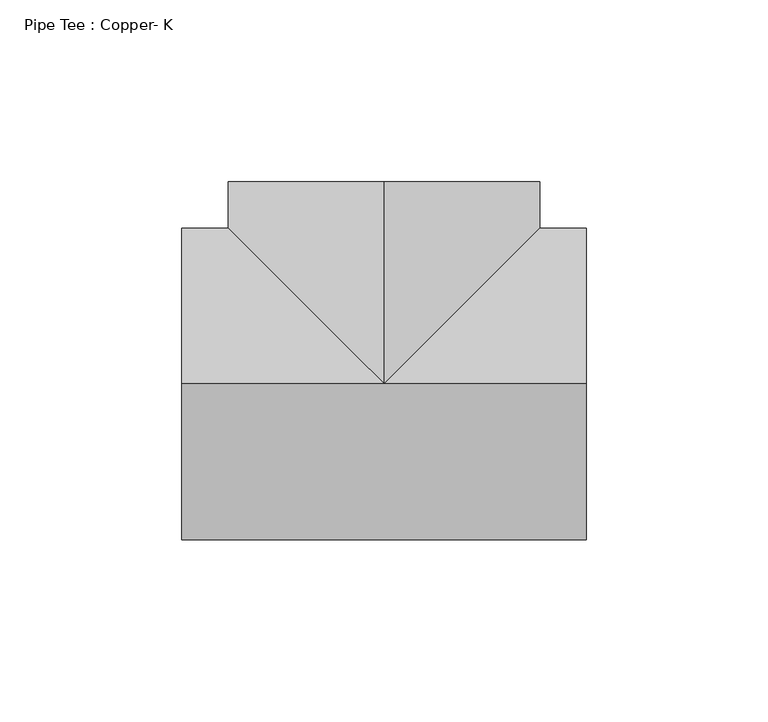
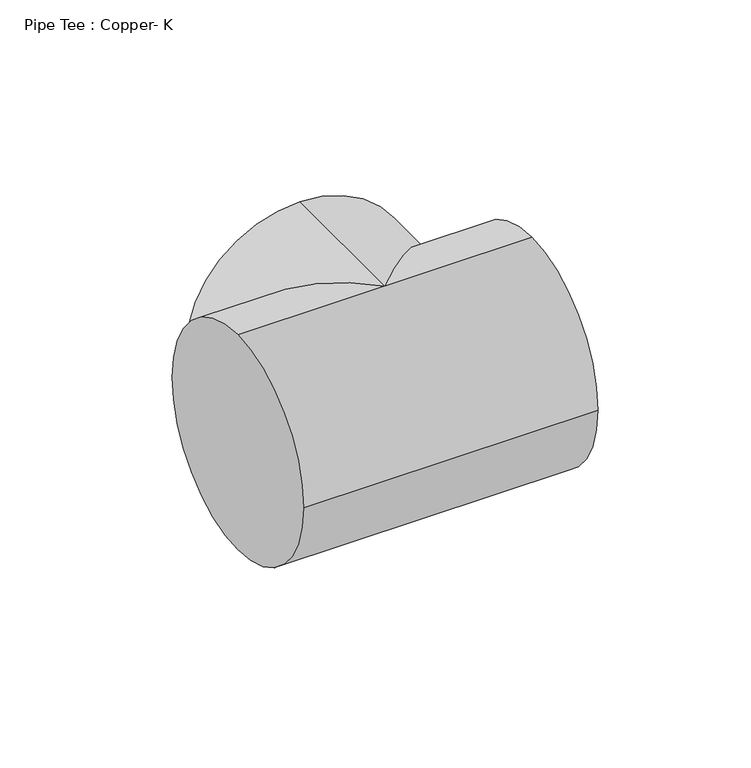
"""IFC4 building model written with IfcOpenShell, lengths in millimetres: pipe fitting geometry, Pipe Tee : Copper- K."""

from ifc_helpers import new_model, si_unit, frame, origin, place, context, project, spatial, circle_curve, ellipse_curve, source, transform, mapped, element, save
from ifc_brep_helpers import plane_surface, cylinder_surface, advanced_brep


def pipe_tee_copper_k_8ae7f23d(model_context):
    return source(origin(), model_context, "Body", "AdvancedBrep", [
        advanced_brep(
        [(-55.5625, 0.0, 42.8625), (-55.5625, 42.8625, 0.0), (-55.5625, 0.0, -42.8625), (-55.5625, -42.8625, 0.0), (55.5625, 0.0, 42.8625), (55.5625, -42.8625, 0.0), (55.5625, 0.0, -42.8625), (55.5625, 42.8625, 0.0), (0.0, 0.0, 42.8625), (0.0, 0.0, -42.8625), (42.8625, 42.8625, 0.0), (-42.8625, 42.8625, 0.0), (0.0, 55.5625, 42.8625), (42.8625, 55.5625, 0.0), (0.0, 55.5625, -42.8625), (-42.8625, 55.5625, 0.0)],
        [
            (0, 1, circle_curve(frame((-55.5625, 0.0, 0.0), z_axis=(-1.0, 0.0, 0.0), x_axis=(0.0, -1.0, 0.0)), 42.8625)),
            (1, 2, circle_curve(frame((-55.5625, 0.0, 0.0), z_axis=(-1.0, 0.0, 0.0), x_axis=(0.0, -1.0, 0.0)), 42.8625)),
            (2, 3, circle_curve(frame((-55.5625, 0.0, 0.0), z_axis=(-1.0, 0.0, 0.0), x_axis=(0.0, -1.0, 0.0)), 42.8625)),
            (3, 0, circle_curve(frame((-55.5625, 0.0, 0.0), z_axis=(-1.0, 0.0, 0.0), x_axis=(0.0, -1.0, 0.0)), 42.8625)),
            (4, 5, circle_curve(frame((55.5625, 0.0, 0.0), z_axis=(1.0, 0.0, 0.0), x_axis=(0.0, -1.0, 0.0)), 42.8625)),
            (5, 6, circle_curve(frame((55.5625, 0.0, 0.0), z_axis=(1.0, 0.0, 0.0), x_axis=(0.0, -1.0, 0.0)), 42.8625)),
            (6, 7, circle_curve(frame((55.5625, 0.0, 0.0), z_axis=(1.0, 0.0, 0.0), x_axis=(0.0, -1.0, 0.0)), 42.8625)),
            (7, 4, circle_curve(frame((55.5625, 0.0, 0.0), z_axis=(1.0, 0.0, 0.0), x_axis=(0.0, -1.0, 0.0)), 42.8625)),
            (3, 5),
            (4, 8),
            (8, 0),
            (2, 9),
            (9, 6),
            (9, 10, ellipse_curve(frame((0.0, 0.0, 0.0), z_axis=(0.7071067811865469, -0.7071067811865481, 0.0), x_axis=(-0.7071067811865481, -0.7071067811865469, 0.0)), 60.6167288, 42.8625)),
            (10, 7),
            (1, 11),
            (11, 9, ellipse_curve(frame((0.0, 0.0, 0.0), z_axis=(-0.707106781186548, -0.7071067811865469, 0.0), x_axis=(-0.7071067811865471, 0.7071067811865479, 0.0)), 60.6167288, 42.8625)),
            (8, 11, ellipse_curve(frame((0.0, 0.0, 0.0), z_axis=(-0.707106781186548, -0.7071067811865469, 0.0), x_axis=(-0.7071067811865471, 0.7071067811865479, 0.0)), 60.6167288, 42.8625)),
            (10, 8, ellipse_curve(frame((0.0, 0.0, 0.0), z_axis=(0.7071067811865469, -0.7071067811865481, 0.0), x_axis=(-0.7071067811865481, -0.7071067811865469, 0.0)), 60.6167288, 42.8625)),
            (12, 13, circle_curve(frame((0.0, 55.5625, 0.0), z_axis=(0.0, 1.0, 0.0), x_axis=(1.0, 0.0, 0.0)), 42.8625)),
            (13, 14, circle_curve(frame((0.0, 55.5625, 0.0), z_axis=(0.0, 1.0, 0.0), x_axis=(1.0, 0.0, 0.0)), 42.8625)),
            (14, 15, circle_curve(frame((0.0, 55.5625, 0.0), z_axis=(0.0, 1.0, 0.0), x_axis=(1.0, 0.0, 0.0)), 42.8625)),
            (15, 12, circle_curve(frame((0.0, 55.5625, 0.0), z_axis=(0.0, 1.0, 0.0), x_axis=(1.0, 0.0, 0.0)), 42.8625)),
            (12, 8),
            (10, 13),
            (9, 14),
            (11, 15),
        ],
        [
            plane_surface(frame((-55.5625, 0.0, 0.0), z_axis=(-1.0, 0.0, 0.0), x_axis=(0.0, 0.0, 1.0))),
            plane_surface(frame((55.5625, 0.0, 0.0), z_axis=(1.0, 0.0, 0.0), x_axis=(0.0, 0.0, 1.0))),
            cylinder_surface(frame((-55.5625, 0.0, 0.0), z_axis=(-1.0, 0.0, 0.0), x_axis=(0.0, -1.0, 0.0)), 42.8625),
            plane_surface(frame((0.0, 55.5625, 0.0), z_axis=(0.0, 1.0, 0.0), x_axis=(0.0, 0.0, 1.0))),
            cylinder_surface(frame((0.0, 0.0, 0.0), z_axis=(0.0, -1.0, 0.0), x_axis=(1.0, 0.0, 0.0)), 42.8625),
        ],
        [
            (0, [[1, 2, 3, 4]]),
            (1, [[5, 6, 7, 8]]),
            (2, [[9, -5, 10, 11, -4]]),
            (2, [[12, 13, -6, -9, -3]]),
            (2, [[-13, 14, 15, -7]]),
            (2, [[16, 17, -12, -2]]),
            (2, [[-11, 18, -16, -1]]),
            (2, [[-15, 19, -10, -8]]),
            (3, [[20, 21, 22, 23]]),
            (4, [[24, -19, 25, -20]]),
            (4, [[-25, -14, 26, -21]]),
            (4, [[-26, -17, 27, -22]]),
            (4, [[-27, -18, -24, -23]]),
        ],
    ),
        advanced_brep(
        [(-55.5625, 0.0, 42.8625), (-55.5625, 42.8625, 0.0), (-55.5625, 0.0, -42.8625), (-55.5625, -42.8625, 0.0), (55.5625, 0.0, 42.8625), (55.5625, -42.8625, 0.0), (55.5625, 0.0, -42.8625), (55.5625, 42.8625, 0.0), (0.0, 0.0, 42.8625), (0.0, 0.0, -42.8625), (42.8625, 42.8625, 0.0), (-42.8625, 42.8625, 0.0), (0.0, 55.5625, 42.8625), (42.8625, 55.5625, 0.0), (0.0, 55.5625, -42.8625), (-42.8625, 55.5625, 0.0)],
        [
            (0, 1, circle_curve(frame((-55.5625, 0.0, 0.0), z_axis=(-1.0, 0.0, 0.0), x_axis=(0.0, -1.0, 0.0)), 42.8625)),
            (1, 2, circle_curve(frame((-55.5625, 0.0, 0.0), z_axis=(-1.0, 0.0, 0.0), x_axis=(0.0, -1.0, 0.0)), 42.8625)),
            (2, 3, circle_curve(frame((-55.5625, 0.0, 0.0), z_axis=(-1.0, 0.0, 0.0), x_axis=(0.0, -1.0, 0.0)), 42.8625)),
            (3, 0, circle_curve(frame((-55.5625, 0.0, 0.0), z_axis=(-1.0, 0.0, 0.0), x_axis=(0.0, -1.0, 0.0)), 42.8625)),
            (4, 5, circle_curve(frame((55.5625, 0.0, 0.0), z_axis=(1.0, 0.0, 0.0), x_axis=(0.0, -1.0, 0.0)), 42.8625)),
            (5, 6, circle_curve(frame((55.5625, 0.0, 0.0), z_axis=(1.0, 0.0, 0.0), x_axis=(0.0, -1.0, 0.0)), 42.8625)),
            (6, 7, circle_curve(frame((55.5625, 0.0, 0.0), z_axis=(1.0, 0.0, 0.0), x_axis=(0.0, -1.0, 0.0)), 42.8625)),
            (7, 4, circle_curve(frame((55.5625, 0.0, 0.0), z_axis=(1.0, 0.0, 0.0), x_axis=(0.0, -1.0, 0.0)), 42.8625)),
            (3, 5),
            (4, 8),
            (8, 0),
            (2, 9),
            (9, 6),
            (9, 10, ellipse_curve(frame((0.0, 0.0, 0.0), z_axis=(0.707106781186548, -0.7071067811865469, 0.0), x_axis=(-0.707106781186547, -0.707106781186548, 0.0)), 60.6167288, 42.8625)),
            (10, 7),
            (1, 11),
            (11, 9, ellipse_curve(frame((0.0, 0.0, 0.0), z_axis=(-0.707106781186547, -0.7071067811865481, 0.0), x_axis=(-0.707106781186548, 0.707106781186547, 0.0)), 60.6167288, 42.8625)),
            (8, 11, ellipse_curve(frame((0.0, 0.0, 0.0), z_axis=(-0.707106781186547, -0.7071067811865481, 0.0), x_axis=(-0.707106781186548, 0.707106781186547, 0.0)), 60.6167288, 42.8625)),
            (10, 8, ellipse_curve(frame((0.0, 0.0, 0.0), z_axis=(0.707106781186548, -0.7071067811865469, 0.0), x_axis=(-0.707106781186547, -0.707106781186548, 0.0)), 60.6167288, 42.8625)),
            (12, 13, circle_curve(frame((0.0, 55.5625, 0.0), z_axis=(0.0, 1.0, 0.0), x_axis=(1.0, 0.0, 0.0)), 42.8625)),
            (13, 14, circle_curve(frame((0.0, 55.5625, 0.0), z_axis=(0.0, 1.0, 0.0), x_axis=(1.0, 0.0, 0.0)), 42.8625)),
            (14, 15, circle_curve(frame((0.0, 55.5625, 0.0), z_axis=(0.0, 1.0, 0.0), x_axis=(1.0, 0.0, 0.0)), 42.8625)),
            (15, 12, circle_curve(frame((0.0, 55.5625, 0.0), z_axis=(0.0, 1.0, 0.0), x_axis=(1.0, 0.0, 0.0)), 42.8625)),
            (12, 8),
            (10, 13),
            (9, 14),
            (11, 15),
        ],
        [
            plane_surface(frame((-55.5625, 0.0, 0.0), z_axis=(-1.0, 0.0, 0.0), x_axis=(0.0, 0.0, 1.0))),
            plane_surface(frame((55.5625, 0.0, 0.0), z_axis=(1.0, 0.0, 0.0), x_axis=(0.0, 0.0, 1.0))),
            cylinder_surface(frame((-55.5625, 0.0, 0.0), z_axis=(-1.0, 0.0, 0.0), x_axis=(0.0, -1.0, 0.0)), 42.8625),
            plane_surface(frame((0.0, 55.5625, 0.0), z_axis=(0.0, 1.0, 0.0), x_axis=(0.0, 0.0, 1.0))),
            cylinder_surface(frame((0.0, 0.0, 0.0), z_axis=(0.0, -1.0, 0.0), x_axis=(1.0, 0.0, 0.0)), 42.8625),
        ],
        [
            (0, [[1, 2, 3, 4]]),
            (1, [[5, 6, 7, 8]]),
            (2, [[9, -5, 10, 11, -4]]),
            (2, [[12, 13, -6, -9, -3]]),
            (2, [[-13, 14, 15, -7]]),
            (2, [[16, 17, -12, -2]]),
            (2, [[-11, 18, -16, -1]]),
            (2, [[-15, 19, -10, -8]]),
            (3, [[20, 21, 22, 23]]),
            (4, [[24, -19, 25, -20]]),
            (4, [[-25, -14, 26, -21]]),
            (4, [[-26, -17, 27, -22]]),
            (4, [[-27, -18, -24, -23]]),
        ],
    ),
    ])


if __name__ == "__main__":
    model = new_model("IFC4")
    model_context = context("Model", 3, world=origin())
    ifc_project = project(units=[si_unit("LENGTHUNIT", "METRE", prefix="MILLI")], contexts=[model_context])
    site = spatial("IfcSite", under=ifc_project)
    building = spatial("IfcBuilding", under=site)
    placement = place(None, origin())
    pipe_tee_copper_k_shape = pipe_tee_copper_k_8ae7f23d(model_context)
    element("IfcPipeFitting", 1, ObjectType="Pipe Tee : Copper- K", at=placement, inside=building, context=model_context, shape_type="MappedRepresentation", body=[
        mapped(pipe_tee_copper_k_shape, transform((0.0, 0.0, 0.0), x_axis=(1.0, 0.0, 0.0), y_axis=(0.0, 1.0, 0.0), z_axis=(0.0, 0.0, 1.0))),
    ])
    save(model, "model.ifc")
